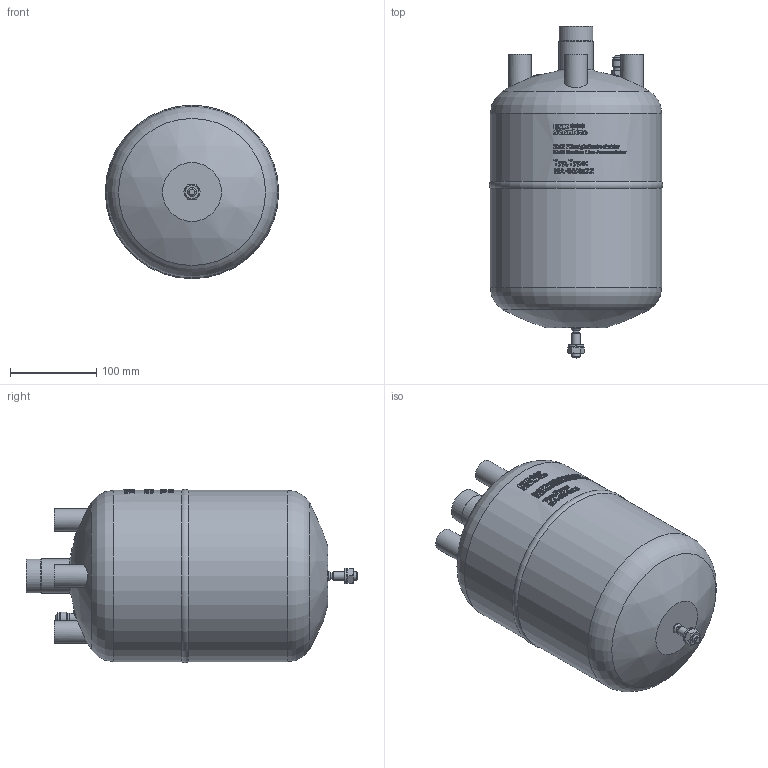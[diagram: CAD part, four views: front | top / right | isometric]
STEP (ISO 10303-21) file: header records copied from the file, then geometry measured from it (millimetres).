
FILE_DESCRIPTION(/* description */ (''),/* implementation_level */ '2;1');
FILE_NAME(/* name */ 'P:\MA\MA-35_4x22\MA-35_4x22_ab 300517.stp',/* time_stamp */ '2017-05-30T08:40:01+02:00',/* author */ ('Goerner'),/* organization */ (''),/* preprocessor_version */ 'ST-DEVELOPER v16.1',/* originating_system */ 'Autodesk Inventor 2016',/* authorisation */ '');
FILE_SCHEMA (('AUTOMOTIVE_DESIGN { 1 0 10303 214 3 1 1 }'));
Length unit declared in the file: millimetre
Products named in the file (1): MA-35_4x22_Rev.1_AG-Kunde
Bounding box: 200.43 x 383.85 x 200.43 mm (x, y, z)
Volume: 8307784.9 mm3; surface area: 241782.7 mm2
Topology: 1 solids, 1 shells, 1585 faces, 4279 edges, 2850 vertices
Faces by surface type: plane 863, bspline 545, cylinder 139, sphere 20, cone 13, torus 5
Full cylindrical faces by diameter (mm): 7 x1, 7.2 x1, 10 x2, 11.5 x1, 12.9 x1, 13.5 x1, 15.7 x1, 16 x1, 22.4 x4, 26 x4, 35.2 x1, 39 x1, 40 x1, 198 x2
Entity records: 61422 total; most frequent: CARTESIAN_POINT 24295, ORIENTED_EDGE 8456, DIRECTION 6380, EDGE_CURVE 4228, VERTEX_POINT 2839, AXIS2_PLACEMENT_3D 2220, LINE 1940, VECTOR 1940
